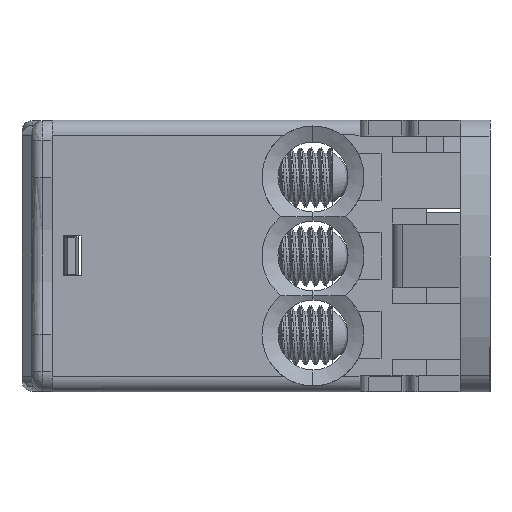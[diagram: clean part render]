
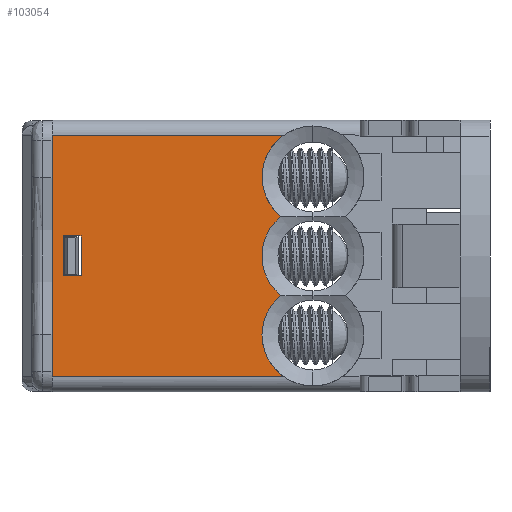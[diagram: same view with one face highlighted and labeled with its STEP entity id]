
A CAD part, left-side view. The second image highlights one B-rep face of the part: STEP entity #103054.
In plain terms, the highlighted planar face has unit normal (-1, 0, 0).
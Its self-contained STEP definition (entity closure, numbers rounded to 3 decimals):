
#8983 = DIRECTION ( 'NONE',  ( 0., -1., 0. ) ) ;
#8984 = DIRECTION ( 'NONE',  ( 1., 0., 0. ) ) ;
#8985 = CARTESIAN_POINT ( 'NONE',  ( -131.579, -10.938, -232.15 ) ) ;
#8986 = AXIS2_PLACEMENT_3D ( 'NONE', #8985, #8984, #8983 ) ;
#8987 = CIRCLE ( 'NONE', #8986, 5.1 ) ;
#9097 = CARTESIAN_POINT ( 'NONE',  ( -131.579, 15.162, -236.35 ) ) ;
#9103 = DIRECTION ( 'NONE',  ( 0., 0., 1. ) ) ;
#9104 = VECTOR ( 'NONE', #9103, 1000. ) ;
#9105 = CARTESIAN_POINT ( 'NONE',  ( -131.579, 15.162, -224.25 ) ) ;
#9106 = LINE ( 'NONE', #9105, #9104 ) ;
#9108 = CARTESIAN_POINT ( 'NONE',  ( -131.579, 15.162, -212.15 ) ) ;
#9113 = DIRECTION ( 'NONE',  ( 0., -1., 0. ) ) ;
#9114 = VECTOR ( 'NONE', #9113, 1000. ) ;
#9115 = CARTESIAN_POINT ( 'NONE',  ( -131.579, -0.238, -212.15 ) ) ;
#9116 = LINE ( 'NONE', #9115, #9114 ) ;
#9123 = DIRECTION ( 'NONE',  ( 0., 1., 0. ) ) ;
#9124 = DIRECTION ( 'NONE',  ( -1., 0., 0. ) ) ;
#9125 = CARTESIAN_POINT ( 'NONE',  ( -131.579, -8.184, -212.15 ) ) ;
#9126 = AXIS2_PLACEMENT_3D ( 'NONE', #9125, #9124, #9123 ) ;
#9128 = PLANE ( 'NONE',  #9126 ) ;
#9143 = FACE_BOUND ( 'NONE', #103014, .T. ) ;
#9148 = FACE_OUTER_BOUND ( 'NONE', #103058, .T. ) ;
#10137 = DIRECTION ( 'NONE',  ( 0., 1., 0. ) ) ;
#10138 = VECTOR ( 'NONE', #10137, 1000. ) ;
#10139 = CARTESIAN_POINT ( 'NONE',  ( -131.579, -0.238, -236.35 ) ) ;
#10140 = LINE ( 'NONE', #10139, #10138 ) ;
#46006 = CARTESIAN_POINT ( 'NONE',  ( -131.579, -8.045, -236.35 ) ) ;
#46007 = DIRECTION ( 'NONE',  ( 0., -1., 0. ) ) ;
#46008 = DIRECTION ( 'NONE',  ( 1., 0., 0. ) ) ;
#46009 = CARTESIAN_POINT ( 'NONE',  ( -131.579, -10.938, -232.15 ) ) ;
#46011 = AXIS2_PLACEMENT_3D ( 'NONE', #46009, #46008, #46007 ) ;
#46012 = CIRCLE ( 'NONE', #46011, 5.1 ) ;
#47294 = CARTESIAN_POINT ( 'NONE',  ( -131.579, -8.045, -212.15 ) ) ;
#47387 = CARTESIAN_POINT ( 'NONE',  ( -131.579, -7.712, -220.3 ) ) ;
#47389 = DIRECTION ( 'NONE',  ( 0., 0., 1. ) ) ;
#47390 = DIRECTION ( 'NONE',  ( 1., 0., 0. ) ) ;
#47392 = CARTESIAN_POINT ( 'NONE',  ( -131.579, -10.938, -216.35 ) ) ;
#47393 = AXIS2_PLACEMENT_3D ( 'NONE', #47392, #47390, #47389 ) ;
#47411 = CIRCLE ( 'NONE', #47393, 5.1 ) ;
#58733 = VERTEX_POINT ( 'NONE', #79090 ) ;
#58839 = EDGE_CURVE ( 'NONE', #58842, #58733, #46012, .T. ) ;
#58842 = VERTEX_POINT ( 'NONE', #46006 ) ;
#59363 = VERTEX_POINT ( 'NONE', #47294 ) ;
#59368 = EDGE_CURVE ( 'NONE', #59371, #59363, #47411, .T. ) ;
#59371 = VERTEX_POINT ( 'NONE', #47387 ) ;
#79090 = CARTESIAN_POINT ( 'NONE',  ( -131.579, -5.838, -232.15 ) ) ;
#100016 = EDGE_CURVE ( 'NONE', #100018, #59371, #149224, .T. ) ;
#100018 = VERTEX_POINT ( 'NONE', #149217 ) ;
#100095 = EDGE_CURVE ( 'NONE', #100134, #100097, #149430, .T. ) ;
#100097 = VERTEX_POINT ( 'NONE', #149426 ) ;
#100106 = VERTEX_POINT ( 'NONE', #149444 ) ;
#100117 = VERTEX_POINT ( 'NONE', #149496 ) ;
#100121 = EDGE_CURVE ( 'NONE', #100106, #100117, #149494, .T. ) ;
#100134 = VERTEX_POINT ( 'NONE', #149523 ) ;
#100241 = EDGE_CURVE ( 'NONE', #100097, #100106, #150276, .T. ) ;
#100252 = EDGE_CURVE ( 'NONE', #100117, #100134, #150342, .T. ) ;
#102891 = EDGE_CURVE ( 'NONE', #58733, #100018, #8987, .T. ) ;
#102998 = ORIENTED_EDGE ( 'NONE', *, *, #103001, .F. ) ;
#103001 = EDGE_CURVE ( 'NONE', #58842, #103075, #10140, .T. ) ;
#103003 = ORIENTED_EDGE ( 'NONE', *, *, #58839, .T. ) ;
#103005 = ORIENTED_EDGE ( 'NONE', *, *, #102891, .T. ) ;
#103007 = ORIENTED_EDGE ( 'NONE', *, *, #100016, .T. ) ;
#103010 = ORIENTED_EDGE ( 'NONE', *, *, #59368, .T. ) ;
#103014 = EDGE_LOOP ( 'NONE', ( #103017, #103019, #103022, #103200 ) ) ;
#103017 = ORIENTED_EDGE ( 'NONE', *, *, #100095, .T. ) ;
#103019 = ORIENTED_EDGE ( 'NONE', *, *, #100241, .T. ) ;
#103022 = ORIENTED_EDGE ( 'NONE', *, *, #100121, .T. ) ;
#103054 = ADVANCED_FACE ( 'NONE', ( #9148, #9143 ), #9128, .T. ) ;
#103058 = EDGE_LOOP ( 'NONE', ( #103061, #103070, #102998, #103003, #103005, #103007, #103010 ) ) ;
#103061 = ORIENTED_EDGE ( 'NONE', *, *, #103064, .F. ) ;
#103064 = EDGE_CURVE ( 'NONE', #103067, #59363, #9116, .T. ) ;
#103067 = VERTEX_POINT ( 'NONE', #9108 ) ;
#103070 = ORIENTED_EDGE ( 'NONE', *, *, #103072, .F. ) ;
#103072 = EDGE_CURVE ( 'NONE', #103075, #103067, #9106, .T. ) ;
#103075 = VERTEX_POINT ( 'NONE', #9097 ) ;
#103200 = ORIENTED_EDGE ( 'NONE', *, *, #100252, .T. ) ;
#149217 = CARTESIAN_POINT ( 'NONE',  ( -131.579, -7.712, -228.2 ) ) ;
#149220 = DIRECTION ( 'NONE',  ( 0., 0., 1. ) ) ;
#149221 = DIRECTION ( 'NONE',  ( 1., 0., 0. ) ) ;
#149222 = CARTESIAN_POINT ( 'NONE',  ( -131.579, -10.938, -224.25 ) ) ;
#149223 = AXIS2_PLACEMENT_3D ( 'NONE', #149222, #149221, #149220 ) ;
#149224 = CIRCLE ( 'NONE', #149223, 5.1 ) ;
#149426 = CARTESIAN_POINT ( 'NONE',  ( -131.579, 12.262, -226.25 ) ) ;
#149427 = DIRECTION ( 'NONE',  ( 0., 0., -1. ) ) ;
#149428 = VECTOR ( 'NONE', #149427, 1000. ) ;
#149429 = CARTESIAN_POINT ( 'NONE',  ( -131.579, 12.262, -224.25 ) ) ;
#149430 = LINE ( 'NONE', #149429, #149428 ) ;
#149444 = CARTESIAN_POINT ( 'NONE',  ( -131.579, 14.062, -226.25 ) ) ;
#149484 = DIRECTION ( 'NONE',  ( 0., 0., 1. ) ) ;
#149485 = VECTOR ( 'NONE', #149484, 1000. ) ;
#149492 = CARTESIAN_POINT ( 'NONE',  ( -131.579, 14.062, -224.25 ) ) ;
#149494 = LINE ( 'NONE', #149492, #149485 ) ;
#149496 = CARTESIAN_POINT ( 'NONE',  ( -131.579, 14.062, -222.25 ) ) ;
#149523 = CARTESIAN_POINT ( 'NONE',  ( -131.579, 12.262, -222.25 ) ) ;
#150273 = DIRECTION ( 'NONE',  ( 0., 1., 0. ) ) ;
#150274 = VECTOR ( 'NONE', #150273, 1000. ) ;
#150275 = CARTESIAN_POINT ( 'NONE',  ( -131.579, 3.489, -226.25 ) ) ;
#150276 = LINE ( 'NONE', #150275, #150274 ) ;
#150339 = DIRECTION ( 'NONE',  ( 0., -1., 0. ) ) ;
#150340 = VECTOR ( 'NONE', #150339, 1000. ) ;
#150341 = CARTESIAN_POINT ( 'NONE',  ( -131.579, 3.489, -222.25 ) ) ;
#150342 = LINE ( 'NONE', #150341, #150340 ) ;
